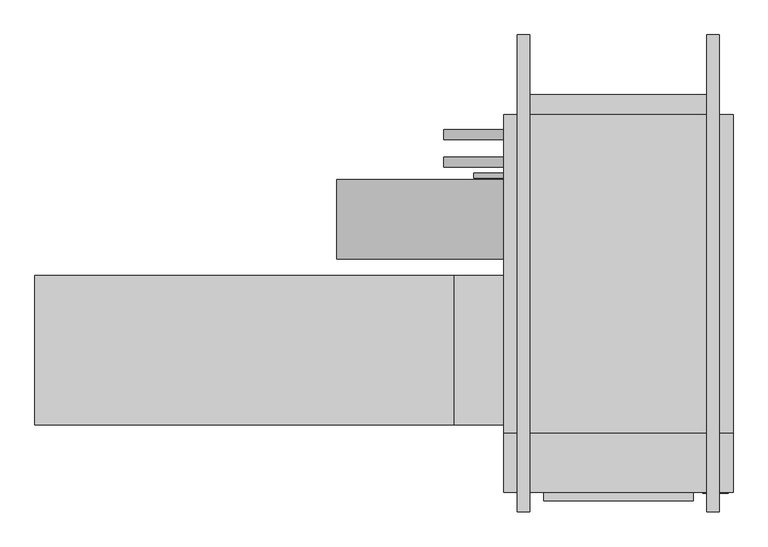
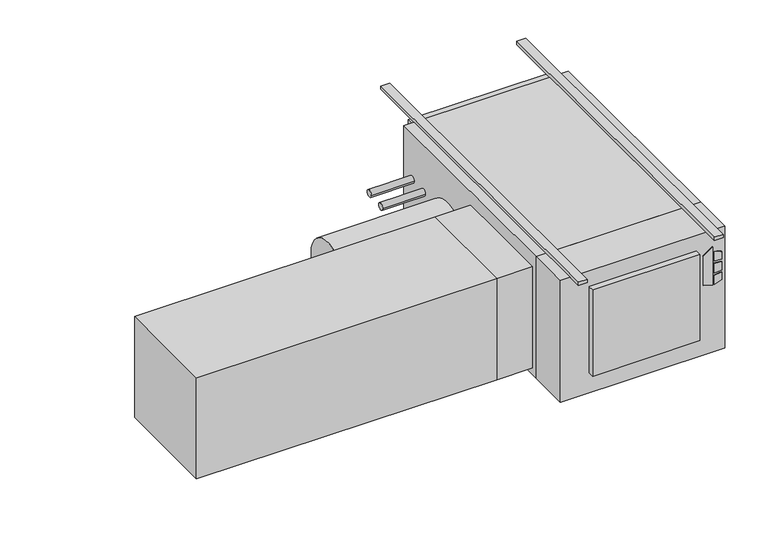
"""IFC4 building model written with IfcOpenShell, lengths in millimetres: proxy geometry."""

from ifc_helpers import new_model, si_unit, point, frame, frame_2d, origin, origin_with_axes, place, context, project, spatial, polyline, circle_curve, trimmed, segment, composite_curve, outline, extrude, source, transform, mapped, element, save


def mechanical_equipment_1afd819a(model_context):
    return source(origin(), model_context, "Body", "SweptSolid", [
        extrude(outline(polyline([(-193.2519297, 366.7868862), (-203.2, 398.9602728), (-61.0290756, 398.9602728), (-84.0510817, 366.7868862), (-193.2519297, 366.7868862)])), frame((0.0, -797.052, 0.0), z_axis=(0.0, 1.0, 0.0), x_axis=(0.0, 0.0, 1.0)), (0.0, 0.0, 1.0), 3.175),
        extrude(outline(polyline([(-114.2526443, 405.7186058), (-117.4550368, 431.8), (-88.2261958, 431.8), (-80.1617807, 405.7186058), (-114.2526443, 405.7186058)])), frame((0.0, -797.052, 0.0), z_axis=(0.0, 1.0, 0.0), x_axis=(0.0, 0.0, 1.0)), (0.0, 0.0, 1.0), 3.175),
        extrude(outline(polyline([(-166.1161712, 431.8), (-169.7816721, 405.7186058), (-203.2, 405.7186058), (-194.5657628, 431.8), (-166.1161712, 431.8)])), frame((0.0, -797.052, 0.0), z_axis=(0.0, 1.0, 0.0), x_axis=(0.0, 0.0, 1.0)), (0.0, 0.0, 1.0), 3.175),
        extrude(outline(polyline([(-126.8010097, 431.8), (-124.5191834, 405.7186058), (-160.4567319, 405.7186058), (-157.7154669, 431.8), (-126.8010097, 431.8)])), frame((0.0, -797.052, 0.0), z_axis=(0.0, 1.0, 0.0), x_axis=(0.0, 0.0, 1.0)), (0.0, 0.0, 1.0), 3.175),
        extrude(outline(polyline([(444.5, -793.877), (-139.7, -793.877), (-139.7, -644.525), (444.5, -644.525), (444.5, -793.877)])), frame((0.0, 0.0, -457.2), z_axis=(0.0, 0.0, 1.0), x_axis=(1.0, 0.0, 0.0)), (0.0, 0.0, 1.0), 457.2),
        extrude(outline(polyline([(342.9, -816.229), (-38.1, -816.229), (-38.1, -793.877), (342.9, -793.877), (342.9, -816.229)])), frame((0.0, 0.0, -381.0), z_axis=(0.0, 0.0, 1.0), x_axis=(1.0, 0.0, 0.0)), (0.0, 0.0, 1.0), 323.85),
        extrude(outline(polyline([(-1333.5, -622.3), (-1333.5, -241.3), (-266.7, -241.3), (-266.7, -622.3), (-1333.5, -622.3)])), frame((0.0, 0.0, -431.8), z_axis=(0.0, 0.0, 1.0), x_axis=(1.0, 0.0, 0.0)), (0.0, 0.0, 1.0), 381.0),
        extrude(outline(polyline([(-139.7, -241.3), (-139.7, -622.3), (-266.7, -622.3), (-266.7, -241.3), (-139.7, -241.3)])), frame((0.0, 0.0, -431.8), z_axis=(0.0, 0.0, 1.0), x_axis=(1.0, 0.0, 0.0)), (0.0, 0.0, 1.0), 381.0),
        extrude(outline(composite_curve([segment(trimmed(circle_curve(frame_2d((-98.4896516, -228.6360165)), 101.6), [point((-200.0896516, -228.6360165))], [point((3.1103484, -228.6360165))], False, "CARTESIAN"), True, "CONTINUOUS"), segment(trimmed(circle_curve(frame_2d((-98.4896516, -228.6360165)), 101.6), [point((3.1103484, -228.6360165))], [point((-200.0896516, -228.6360165))], False, "CARTESIAN"), True, "CONTINUOUS")], self_intersect=False)), frame((-565.15, 0.0, 0.0), z_axis=(1.0, 0.0, 0.0), x_axis=(0.0, 1.0, 0.0)), (0.0, 0.0, 1.0), 425.45),
        extrude(outline(composite_curve([segment(trimmed(circle_curve(frame_2d((47.625, -177.8)), 12.7), [point((34.925, -177.8))], [point((60.325, -177.8))], False, "CARTESIAN"), True, "CONTINUOUS"), segment(trimmed(circle_curve(frame_2d((47.625, -177.8)), 12.7), [point((60.325, -177.8))], [point((34.925, -177.8))], False, "CARTESIAN"), True, "CONTINUOUS")], self_intersect=False)), frame((-292.1, 0.0, 0.0), z_axis=(1.0, 0.0, 0.0), x_axis=(0.0, 1.0, 0.0)), (0.0, 0.0, 1.0), 152.4),
        extrude(outline(composite_curve([segment(trimmed(circle_curve(frame_2d((117.475, -171.45)), 12.7), [point((104.775, -171.45))], [point((130.175, -171.45))], False, "CARTESIAN"), True, "CONTINUOUS"), segment(trimmed(circle_curve(frame_2d((117.475, -171.45)), 12.7), [point((130.175, -171.45))], [point((104.775, -171.45))], False, "CARTESIAN"), True, "CONTINUOUS")], self_intersect=False)), frame((-292.1, 0.0, 0.0), z_axis=(1.0, 0.0, 0.0), x_axis=(0.0, 1.0, 0.0)), (0.0, 0.0, 1.0), 152.4),
        extrude(outline(composite_curve([segment(trimmed(circle_curve(frame_2d((12.7, -409.575)), 6.35), [point((6.35, -409.575))], [point((19.05, -409.575))], False, "CARTESIAN"), True, "CONTINUOUS"), segment(trimmed(circle_curve(frame_2d((12.7, -409.575)), 6.35), [point((19.05, -409.575))], [point((6.35, -409.575))], False, "CARTESIAN"), True, "CONTINUOUS")], self_intersect=False)), frame((-215.9, 0.0, 0.0), z_axis=(1.0, 0.0, 0.0), x_axis=(0.0, 1.0, 0.0)), (0.0, 0.0, 1.0), 76.2),
        extrude(outline(polyline([(444.5, 168.275), (444.5, -644.525), (-139.7, -644.525), (-139.7, 168.275), (444.5, 168.275)])), frame((0.0, 0.0, -457.2), z_axis=(0.0, 0.0, 1.0), x_axis=(1.0, 0.0, 0.0)), (0.0, 0.0, 1.0), 457.2),
        extrude(outline(polyline([(-95.25, 219.075), (400.05, 219.075), (400.05, 168.275), (-95.25, 168.275), (-95.25, 219.075)])), frame((0.0, 0.0, -381.0), z_axis=(0.0, 0.0, 1.0), x_axis=(1.0, 0.0, 0.0)), (0.0, 0.0, 1.0), 355.6),
        extrude(outline(polyline([(-73.025, 371.475), (-73.025, -844.677), (-104.775, -844.677), (-104.775, 371.475), (-73.025, 371.475)])), origin_with_axes(), (0.0, 0.0, 1.0), 12.7),
        extrude(outline(polyline([(409.575, 371.475), (409.575, -844.677), (377.825, -844.677), (377.825, 371.475), (409.575, 371.475)])), origin_with_axes(), (0.0, 0.0, 1.0), 12.7),
    ])


if __name__ == "__main__":
    model = new_model("IFC4")
    model_context = context("Model", 3, world=origin())
    ifc_project = project(units=[si_unit("LENGTHUNIT", "METRE", prefix="MILLI")], contexts=[model_context])
    site = spatial("IfcSite", under=ifc_project)
    building = spatial("IfcBuilding", under=site)
    placement = place(None, origin())
    mechanical_equipment_shape = mechanical_equipment_1afd819a(model_context)
    element("IfcBuildingElementProxy", 1, Name="High_Capacity_Horizontal_Cabinet_Fan_Coil_Unit_-_HTY_-_IEC_-_2 Pipe, Elec Heat_LH Side_2022 : Size 06 - 277v/60Hz/1Ph - 8/0 Coil 4.0kW - 8\" AirIn", ObjectType="High_Capacity_Horizontal_Cabinet_Fan_Coil_Unit_-_HTY_-_IEC_-_2 Pipe, Elec Heat_LH Side_2022 : Size 06 - 277v/60Hz/1Ph - 8/0 Coil 4.0kW - 8\" AirIn", at=placement, inside=building, context=model_context, shape_type="MappedRepresentation", body=[
        mapped(mechanical_equipment_shape, transform((0.0, 0.0, 0.0), x_axis=(1.0, 0.0, 0.0), y_axis=(0.0, 1.0, 0.0), z_axis=(0.0, 0.0, 1.0))),
    ])
    save(model, "model.ifc")
